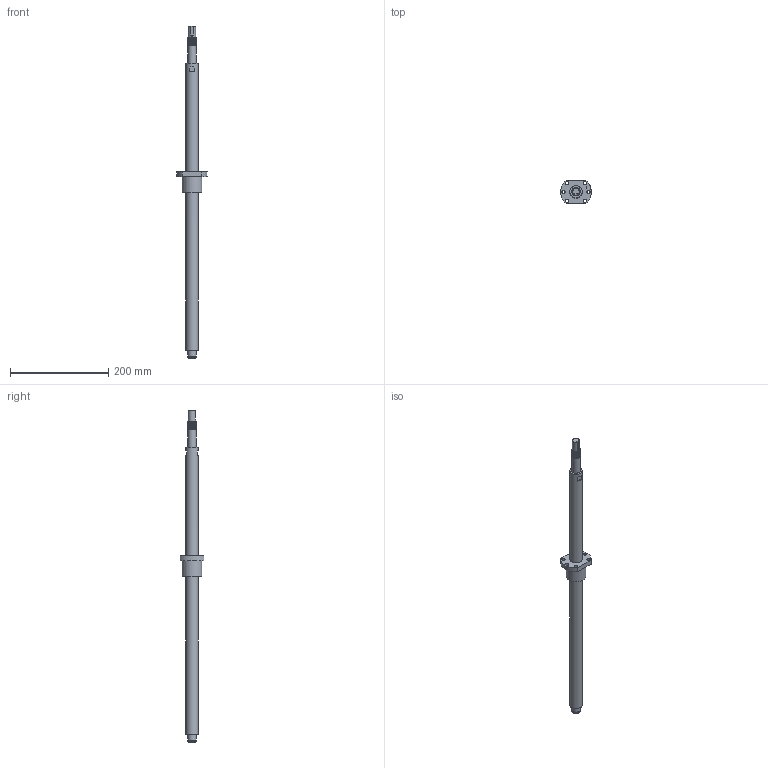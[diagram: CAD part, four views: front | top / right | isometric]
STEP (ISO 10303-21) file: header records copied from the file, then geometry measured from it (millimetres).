
FILE_DESCRIPTION(/* description */ (''),/* implementation_level */ '2;1');
FILE_NAME(/* name */ 'BSG280__G2505-675__stp.stp',/* time_stamp */ '2017-11-21T13:55:15+08:00',/* author */ (''),/* organization */ (''),/* preprocessor_version */ 'ST-DEVELOPER v15',/* originating_system */ 'SIEMENS PLM Software NX 8.5',/* authorisation */ '');
FILE_SCHEMA (('AUTOMOTIVE_DESIGN { 1 0 10303 214 3 1 1 1 }'));
Length unit declared in the file: millimetre
Products named in the file (3): 01; BSG280; BSG280__G2505-675__stp
Assembly tree (2 placements, depth 2):
  BSG280__G2505-675__stp
    BSG280
    01
Bounding box: 61.8 x 48 x 675 mm (x, y, z)
Volume: 348613 mm3; surface area: 66789.1 mm2
Topology: 2 solids, 2 shells, 65 faces, 163 edges, 111 vertices
Faces by surface type: cylinder 37, plane 24, bspline 2, cone 2
Full cylindrical faces by diameter (mm): 5 x1, 6 x1, 6.6 x6, 15 x1, 16.2 x1, 17 x19, 25 x2, 40 x1
Entity records: 4681 total; most frequent: CARTESIAN_POINT 3598, DIRECTION 212, ORIENTED_EDGE 170, AXIS2_PLACEMENT_3D 92, EDGE_LOOP 90, EDGE_CURVE 85, FACE_BOUND 69, VERTEX_POINT 67
